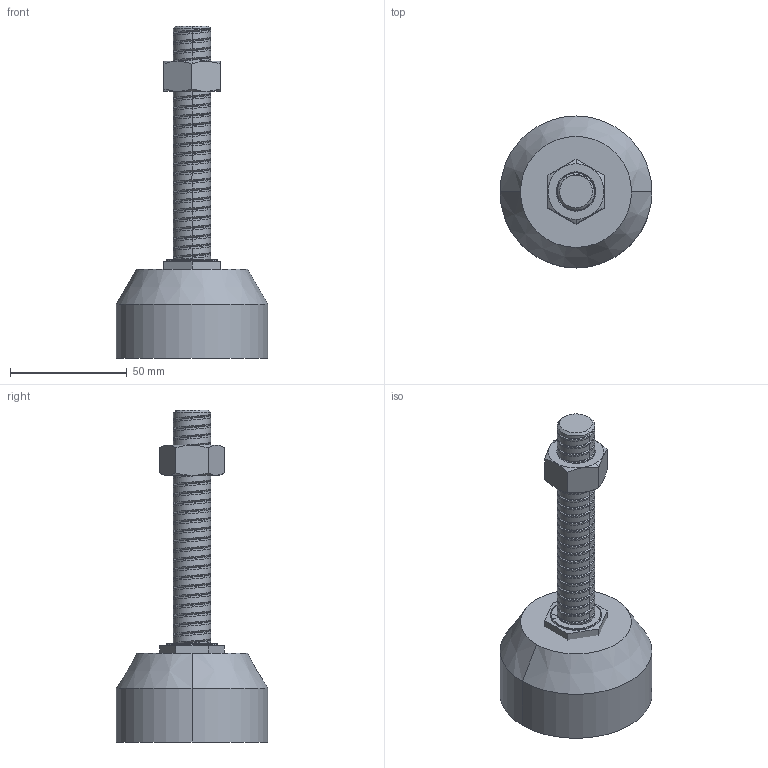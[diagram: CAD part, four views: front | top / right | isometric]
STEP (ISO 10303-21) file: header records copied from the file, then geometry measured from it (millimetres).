
FILE_DESCRIPTION (( 'STEP AP203' ), '1' );
FILE_NAME ('FS-101-3-16-L.STEP', '2015-11-23T03:14:00', ( '' ), ( '' ), 'SwSTEP 2.0', 'SolidWorks 2014', '' );
FILE_SCHEMA (( 'CONFIG_CONTROL_DESIGN' ));
Length unit declared in the file: millimetre
Products named in the file (4): FS-101-3-16-L圓腳座; M16螺帽-1; DT-M16X100L-12調整螺絲-1; FS-101-3-16-L
Assembly tree (3 placements, depth 2):
  FS-101-3-16-L
    FS-101-3-16-L圓腳座
    M16螺帽-1
    DT-M16X100L-12調整螺絲-1
Bounding box: 65 x 65 x 142 mm (x, y, z)
Volume: 147331.1 mm3; surface area: 27862.1 mm2
Topology: 4 solids, 4 shells, 162 faces, 405 edges, 254 vertices
Faces by surface type: cylinder 76, cone 50, plane 24, bspline 12
Entity records: 13316 total; most frequent: CARTESIAN_POINT 9408, ORIENTED_EDGE 810, DIRECTION 679, EDGE_CURVE 405, AXIS2_PLACEMENT_3D 270, VERTEX_POINT 254, EDGE_LOOP 169, ADVANCED_FACE 162
